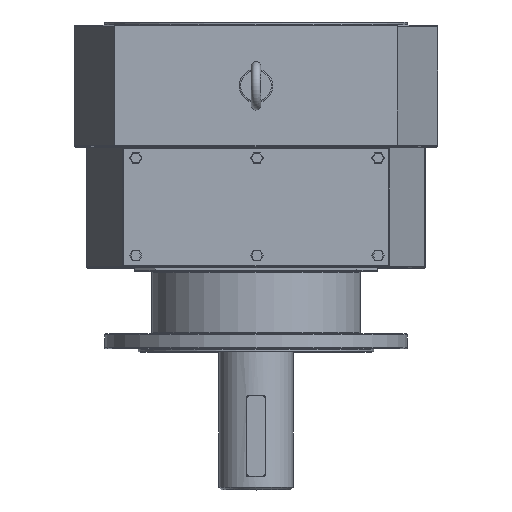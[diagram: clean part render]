
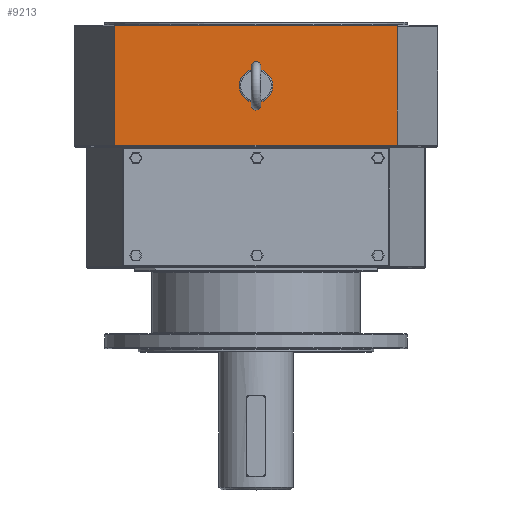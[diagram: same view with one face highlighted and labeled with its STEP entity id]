
A CAD part, top view. The second image highlights one B-rep face of the part: STEP entity #9213.
In plain terms, the highlighted planar face has unit normal (0, 0, 1).
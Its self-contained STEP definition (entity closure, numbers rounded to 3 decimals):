
#8271=CARTESIAN_POINT('',(25.,90.,565.0));
#8272=VERTEX_POINT('',#8271);
#8273=CARTESIAN_POINT('',(0.,90.,565.0));
#8274=DIRECTION('',(0.0,0.0,-1.));
#8275=DIRECTION('',(0.707,0.707,0.0));
#8276=AXIS2_PLACEMENT_3D('',#8273,#8274,#8275);
#8277=CIRCLE('',#8276,25.);
#8278=EDGE_CURVE('',#8272,#8272,#8277,.F.);
#8870=CARTESIAN_POINT('',(-210.0,178.,565.));
#8871=VERTEX_POINT('',#8870);
#8872=CARTESIAN_POINT('',(-207.782,180.,565.));
#8873=VERTEX_POINT('',#8872);
#8874=CARTESIAN_POINT('',(-207.782,178.,565.));
#8875=DIRECTION('',(0.0,0.0,-1.0));
#8876=DIRECTION('',(-1.0,0.0,0.0));
#8877=AXIS2_PLACEMENT_3D('',#8874,#8875,#8876);
#8878=ELLIPSE('',#8877,2.218,2.);
#8879=EDGE_CURVE('',#8871,#8873,#8878,.T.);
#9078=CARTESIAN_POINT('',(207.782,180.,565.));
#9079=VERTEX_POINT('',#9078);
#9080=CARTESIAN_POINT('',(207.782,180.,565.0));
#9081=DIRECTION('',(-1.0,0.0,0.0));
#9082=VECTOR('',#9081,415.563);
#9083=LINE('',#9080,#9082);
#9084=EDGE_CURVE('',#9079,#8873,#9083,.T.);
#9170=CARTESIAN_POINT('',(0.0,0.0,565.0));
#9171=DIRECTION('',(0.0,0.0,1.0));
#9172=DIRECTION('',(1.0,0.0,0.0));
#9173=AXIS2_PLACEMENT_3D('',#9170,#9171,#9172);
#9174=PLANE('',#9173);
#9175=ORIENTED_EDGE('',*,*,#8879,.F.);
#9176=CARTESIAN_POINT('',(-210.0,2.0,565.));
#9177=VERTEX_POINT('',#9176);
#9178=CARTESIAN_POINT('',(-210.0,2.0,565.));
#9179=DIRECTION('',(0.0,1.0,0.0));
#9180=VECTOR('',#9179,176.);
#9181=LINE('',#9178,#9180);
#9182=EDGE_CURVE('',#9177,#8871,#9181,.T.);
#9183=ORIENTED_EDGE('',*,*,#9182,.F.);
#9184=CARTESIAN_POINT('',(210.0,2.,565.));
#9185=VERTEX_POINT('',#9184);
#9186=CARTESIAN_POINT('',(210.0,2.,565.));
#9187=DIRECTION('',(-1.0,0.0,0.0));
#9188=VECTOR('',#9187,420.0);
#9189=LINE('',#9186,#9188);
#9190=EDGE_CURVE('',#9185,#9177,#9189,.T.);
#9191=ORIENTED_EDGE('',*,*,#9190,.F.);
#9192=CARTESIAN_POINT('',(210.0,178.,565.));
#9193=VERTEX_POINT('',#9192);
#9194=CARTESIAN_POINT('',(210.0,2.,565.));
#9195=DIRECTION('',(0.0,1.0,0.0));
#9196=VECTOR('',#9195,176.);
#9197=LINE('',#9194,#9196);
#9198=EDGE_CURVE('',#9185,#9193,#9197,.T.);
#9199=ORIENTED_EDGE('',*,*,#9198,.T.);
#9200=CARTESIAN_POINT('',(207.782,178.,565.));
#9201=DIRECTION('',(0.0,0.0,-1.0));
#9202=DIRECTION('',(1.0,0.0,0.0));
#9203=AXIS2_PLACEMENT_3D('',#9200,#9201,#9202);
#9204=ELLIPSE('',#9203,2.218,2.);
#9205=EDGE_CURVE('',#9079,#9193,#9204,.T.);
#9206=ORIENTED_EDGE('',*,*,#9205,.F.);
#9207=ORIENTED_EDGE('',*,*,#9084,.T.);
#9208=EDGE_LOOP('',(#9175,#9183,#9191,#9199,#9206,#9207));
#9209=FACE_OUTER_BOUND('',#9208,.T.);
#9210=ORIENTED_EDGE('',*,*,#8278,.F.);
#9211=EDGE_LOOP('',(#9210));
#9212=FACE_BOUND('',#9211,.T.);
#9213=ADVANCED_FACE('',(#9209,#9212),#9174,.T.);
